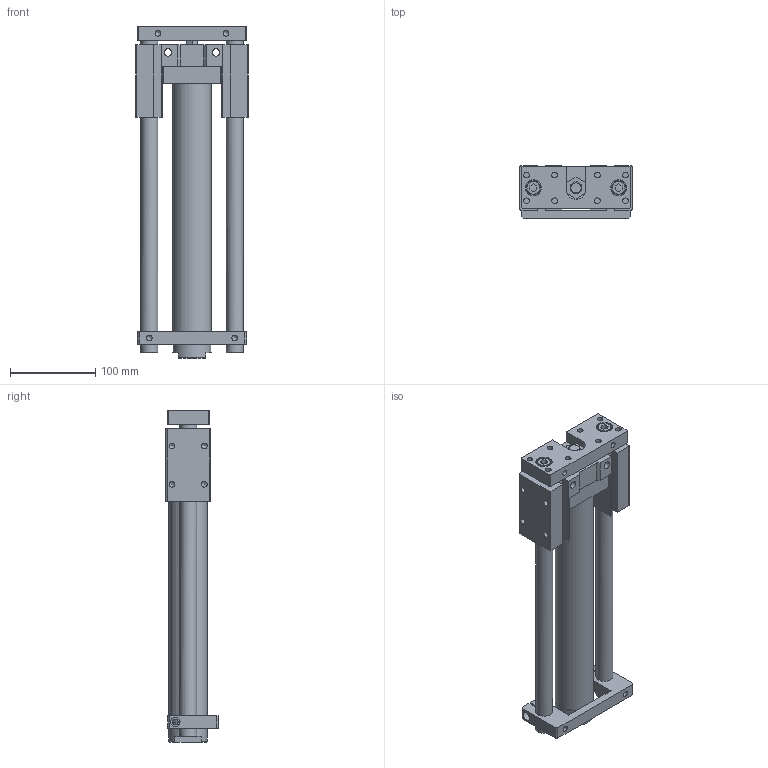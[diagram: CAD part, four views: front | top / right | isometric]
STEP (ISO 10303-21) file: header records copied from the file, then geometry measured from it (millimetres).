
FILE_DESCRIPTION((''),'2;1');
FILE_NAME('I:\3D電子目錄\氣缸\TMB(U)\TMB(U)\TMB(U)40\TMB(U)40x250.stp','2007-10-05T11:45:13',('Administrator'),(''),'Autodesk Inventor 11','Autodesk Inventor 11','');
FILE_SCHEMA(('AUTOMOTIVE_DESIGN { 1 0 10303 214 1 1 1 1 }'));
Length unit declared in the file: millimetre
Products named in the file (1): TMB(U)40
Bounding box: 132 x 61 x 389 mm (x, y, z)
Volume: 1207824.9 mm3; surface area: 178162.8 mm2
Topology: 1 solids, 1 shells, 201 faces, 524 edges, 344 vertices
Faces by surface type: plane 118, bspline 41, cylinder 23, cone 17, torus 2
Full cylindrical faces by diameter (mm): 6.5 x2, 6.647 x6, 11 x1, 14 x1, 16 x2, 18 x2, 20 x2, 45 x2
Entity records: 6100 total; most frequent: CARTESIAN_POINT 1571, DIRECTION 870, ORIENTED_EDGE 858, EDGE_CURVE 429, EDGE_LOOP 324, VERTEX_POINT 319, VECTOR 302, LINE 302
